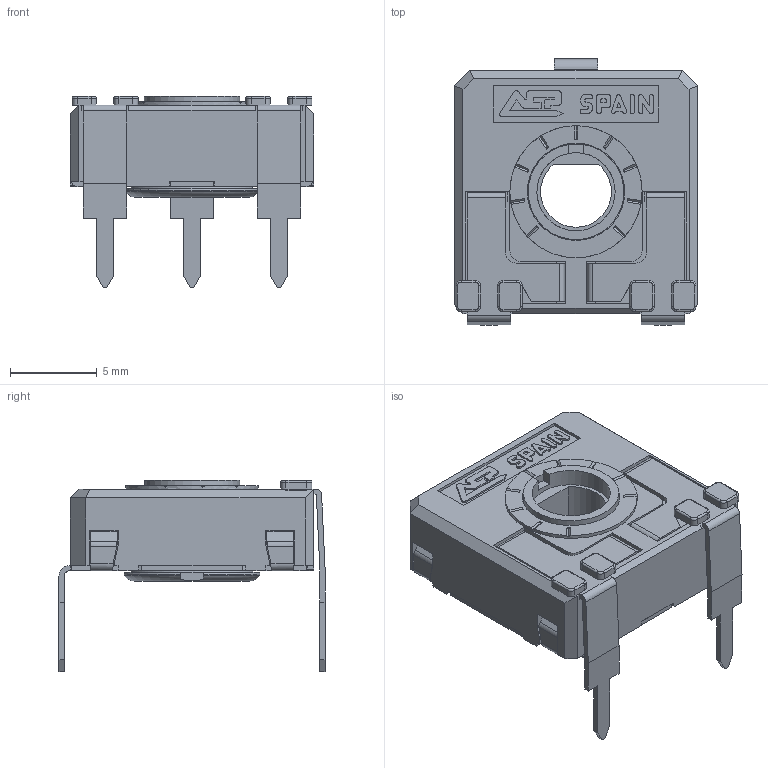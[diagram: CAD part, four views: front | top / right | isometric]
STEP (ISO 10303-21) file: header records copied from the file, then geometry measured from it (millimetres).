
FILE_DESCRIPTION(/* description */ (''),/* implementation_level */ '2;1');
FILE_NAME(/* name */ '\\SERVERACP\intercambio\Ignacio Santa Cecilia\Nueva WEB 2025\CA14 - CE14\CA14DV15.stp',/* time_stamp */ '2025-06-06T09:57:29+02:00',/* author */ ('CEM'),/* organization */ (''),/* preprocessor_version */ 'ST-DEVELOPER v17',/* originating_system */ 'Autodesk Inventor 2018',/* authorisation */ '');
FILE_SCHEMA (('AUTOMOTIVE_DESIGN { 1 0 10303 214 3 1 1 }'));
Length unit declared in the file: millimetre
Products named in the file (1): CARCASA CA14 PGA
Bounding box: 14 x 15.3 x 11 mm (x, y, z)
Volume: 532.2 mm3; surface area: 1486.5 mm2
Topology: 1 solids, 1 shells, 674 faces, 1906 edges, 1228 vertices
Faces by surface type: plane 499, cylinder 138, torus 23, bspline 8, cone 6
Full cylindrical faces by diameter (mm): 4.5 x1, 5.5 x1, 5.6 x1, 5.752 x1, 6.8 x1, 7.6 x1
Entity records: 22035 total; most frequent: CARTESIAN_POINT 4106, ORIENTED_EDGE 3812, DIRECTION 3557, EDGE_CURVE 1906, LINE 1499, VECTOR 1499, VERTEX_POINT 1228, AXIS2_PLACEMENT_3D 1029
